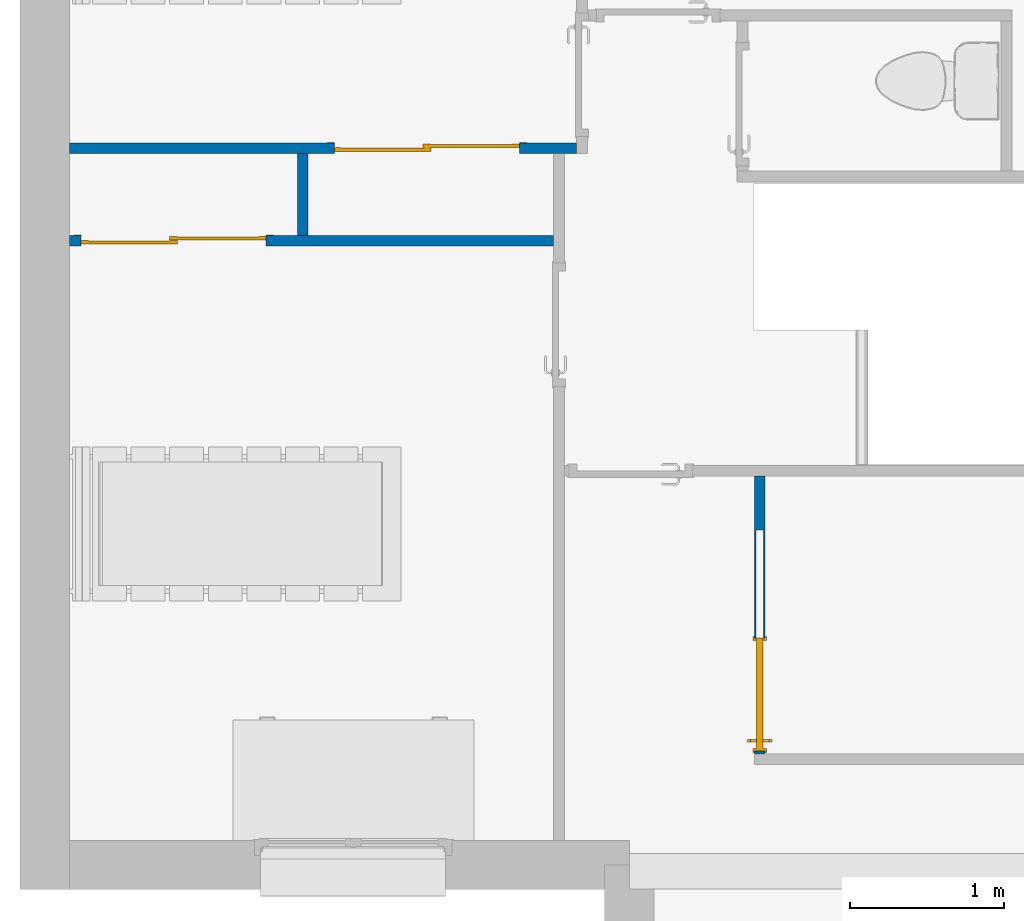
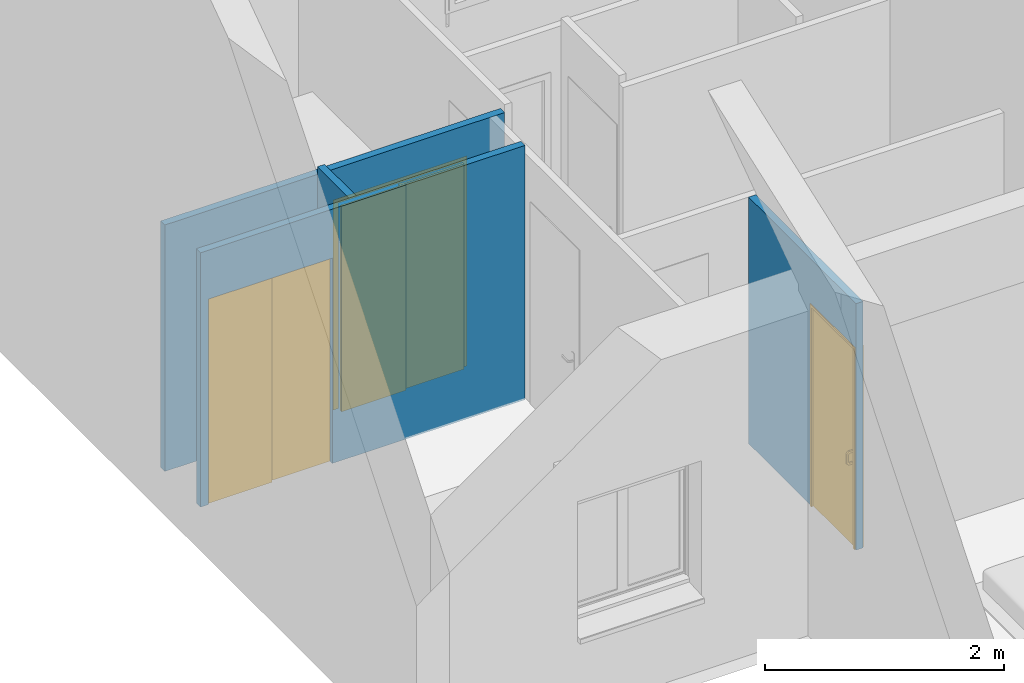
# One storey, part 11 of 61: 4 walls, 3 doors, 3 openings.
"""IFC2X3 building model written with IfcOpenShell, lengths in metres."""

from ifc_helpers import new_model, entity, si_unit, converted_unit, derived_unit, direction, frame, frame_2d, origin, origin_2d_with_axis, place, context, subcontext, project, spatial, polyline, circle_curve, parameter, trimmed, segment, composite_curve, rectangle, outline, extrude, faceted_brep, source, transform, mapped, material, material_list, layer, layer_set, layer_usage, type_object, type_shapes, element, fill, save


model = new_model("IFC2X3")

# Units and contexts
model_context = context("Model", 3, precision=1e-05, world=origin(), true_north=direction((6.12303176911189e-17, 1.0)))
body_context = subcontext(model_context, "Body", "Model", "MODEL_VIEW")
ifc_project = project(units=[si_unit("LENGTHUNIT", "METRE"), si_unit("AREAUNIT", "SQUARE_METRE"), si_unit("VOLUMEUNIT", "CUBIC_METRE"), converted_unit("PLANEANGLEUNIT", "DEGREE", entity("IfcRatioMeasure", 0.0174532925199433), si_unit("PLANEANGLEUNIT", "RADIAN"), dimensions=[0, 0, 0, 0, 0, 0, 0]), si_unit("MASSUNIT", "GRAM", prefix="KILO"), derived_unit("MASSDENSITYUNIT", [(si_unit("MASSUNIT", "GRAM", prefix="KILO"), 1), (si_unit("LENGTHUNIT", "METRE"), -3)]), si_unit("TIMEUNIT", "SECOND"), si_unit("FREQUENCYUNIT", "HERTZ"), si_unit("THERMODYNAMICTEMPERATUREUNIT", "DEGREE_CELSIUS"), derived_unit("THERMALTRANSMITTANCEUNIT", [(si_unit("MASSUNIT", "GRAM", prefix="KILO"), 1), (si_unit("THERMODYNAMICTEMPERATUREUNIT", "KELVIN"), -1), (si_unit("TIMEUNIT", "SECOND"), -3)]), derived_unit("VOLUMETRICFLOWRATEUNIT", [(si_unit("LENGTHUNIT", "METRE"), 3), (si_unit("TIMEUNIT", "SECOND"), -1)]), si_unit("ELECTRICCURRENTUNIT", "AMPERE"), si_unit("ELECTRICVOLTAGEUNIT", "VOLT"), si_unit("POWERUNIT", "WATT"), si_unit("FORCEUNIT", "NEWTON", prefix="KILO"), si_unit("ILLUMINANCEUNIT", "LUX"), si_unit("LUMINOUSFLUXUNIT", "LUMEN"), si_unit("LUMINOUSINTENSITYUNIT", "CANDELA"), derived_unit("USERDEFINED", [(si_unit("MASSUNIT", "GRAM", prefix="KILO"), -1), (si_unit("LENGTHUNIT", "METRE"), -2), (si_unit("TIMEUNIT", "SECOND"), 3), (si_unit("LUMINOUSFLUXUNIT", "LUMEN"), 1)]), derived_unit("LINEARVELOCITYUNIT", [(si_unit("LENGTHUNIT", "METRE"), 1), (si_unit("TIMEUNIT", "SECOND"), -1)]), si_unit("PRESSUREUNIT", "PASCAL"), derived_unit("USERDEFINED", [(si_unit("LENGTHUNIT", "METRE"), -2), (si_unit("MASSUNIT", "GRAM", prefix="KILO"), 1), (si_unit("TIMEUNIT", "SECOND"), -2)])], contexts=[model_context])

# Site, building, storey
site_placement = place(None, origin())
site = spatial("IfcSite", under=ifc_project, at=site_placement, Name="Surface", CompositionType="ELEMENT")
building_placement = place(site_placement, origin())
building = spatial("IfcBuilding", under=site, at=building_placement, CompositionType="ELEMENT")
storey_placement = place(building_placement, frame((0.0, 0.0, 2.82)))
storey = spatial("IfcBuildingStorey", under=building, at=storey_placement, Name="ETAGE", CompositionType="ELEMENT", Elevation=2.82)

# Wall, opening, door
ifc_material_1 = material(Name="Peinture - Blanc")
ifc_layer = layer(ifc_material_1, 0.07)
ifc_layer_set = layer_set([ifc_layer], Name="Mur de base:Int.  Platre 70 mm en blanc")
ifc_layer_usage_1 = layer_usage(ifc_layer_set, "AXIS2", "POSITIVE", -0.035)
wall_type = type_object("IfcWallType", Name="Mur de base:Int.  Platre 70 mm en blanc", PredefinedType="STANDARD", material=ifc_layer_set)
wall_1_placement = place(storey_placement, frame((64.992509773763, 84.6927566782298, 0.0), z_axis=(0.0, 0.0, 1.0), x_axis=(-1.0, 0.0, 0.0)))
wall_1 = element("IfcWallStandardCase", 1, at=wall_1_placement, inside=storey, type_object=wall_type, material=ifc_layer_usage_1, Name="Mur de base:Int.  Platre 70 mm en blanc", ObjectType="Mur de base:Int.  Platre 70 mm en blanc", context=body_context, shape_type="SweptSolid", body=[
    extrude(rectangle(XDim=3.28614635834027, YDim=0.0699999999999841, at=frame_2d((1.64307317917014, -2.37310171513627e-15), x_axis=(-1.0, 0.0))), origin(), (0.0, 0.0, 1.0), 2.52),
])
opening_1_placement = place(wall_1_placement, frame((1.56869914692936, 0.035000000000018, 0.0)))
opening_1 = element("IfcOpeningElement", 2, at=opening_1_placement, cuts=wall_1, Name="Placard coulissante - 2 panneaux:Placard coulissante - 2 panneaux:1", ObjectType="Opening", context=body_context, shape_type="SweptSolid", body=[
    extrude(rectangle(XDim=2.09999999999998, YDim=1.2, at=frame_2d((1.04999999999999, 0.6), x_axis=(1.0, 0.0))), frame((0.0, 0.0, 0.0), z_axis=(0.0, -1.0, 0.0), x_axis=(0.0, 0.0, 1.0)), (0.0, 0.0, 1.0), 0.07),
])
ifc_material_2 = material(Name="Placard - Profil")
ifc_material_3 = material(Name="Placard - Encadrement")
ifc_material_4 = material(Name="Placard - Porte")
ifc_material_list_1 = material_list([ifc_material_2, ifc_material_3, ifc_material_4])
ifc_material_list_2 = material_list([ifc_material_2, ifc_material_3, ifc_material_4])
door_style_1 = type_object("IfcDoorStyle", Name="Placard coulissante - 2 panneaux", ConstructionType="NOTDEFINED", OperationType="NOTDEFINED", ParameterTakesPrecedence=False, Sizeable=False, material=ifc_material_list_2)
shared_shape_1 = source(origin(), body_context, "Body", "SweptSolid", [
    extrude(outline(composite_curve([segment(polyline([(-0.00100000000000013, -0.0249999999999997), (0.00100000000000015, -0.0249999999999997)]), True, "CONTINUOUS"), segment(trimmed(circle_curve(frame_2d((-0.212860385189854, 0.0), x_axis=(0.0, -1.0)), 0.215316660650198), [parameter(83.3324595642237)], [parameter(96.6675404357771)], True, "PARAMETER"), True, "CONTINUOUS"), segment(polyline([(0.00100000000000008, 0.0249999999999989), (-0.00100000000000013, 0.0250000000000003)]), True, "CONTINUOUS"), segment(polyline([(-0.00100000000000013, 0.0250000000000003), (-0.00100000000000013, -0.0249999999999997)]), True, "CONTINUOUS")], self_intersect=False)), frame((0.0250000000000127, 0.00900000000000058, 0.0), z_axis=(0.0, 0.0, 1.0), x_axis=(0.0, -1.0, 0.0)), (0.0, 0.0, 1.0), 2.1),
    extrude(outline(composite_curve([segment(polyline([(-0.00100000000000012, -0.0249999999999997), (0.00100000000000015, -0.0249999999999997)]), True, "CONTINUOUS"), segment(trimmed(circle_curve(frame_2d((-0.212860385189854, 0.0), x_axis=(0.0, -1.0)), 0.215316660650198), [parameter(83.3324595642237)], [parameter(96.6675404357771)], True, "PARAMETER"), True, "CONTINUOUS"), segment(polyline([(0.00100000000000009, 0.0249999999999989), (-0.00100000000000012, 0.0250000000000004)]), True, "CONTINUOUS"), segment(polyline([(-0.00100000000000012, 0.0250000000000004), (-0.00100000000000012, -0.0249999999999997)]), True, "CONTINUOUS")], self_intersect=False)), frame((0.600000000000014, 0.00900000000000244, 0.0), z_axis=(0.0, 0.0, 1.0), x_axis=(0.0, -1.0, 0.0)), (0.0, 0.0, 1.0), 2.1),
    extrude(outline(composite_curve([segment(polyline([(-0.00100000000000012, -0.0249999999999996), (0.00100000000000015, -0.0249999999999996)]), True, "CONTINUOUS"), segment(trimmed(circle_curve(frame_2d((-0.212860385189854, 0.0), x_axis=(0.0, -1.0)), 0.215316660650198), [parameter(83.3324595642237)], [parameter(96.6675404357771)], True, "PARAMETER"), True, "CONTINUOUS"), segment(polyline([(0.00100000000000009, 0.0249999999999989), (-0.00100000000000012, 0.0250000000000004)]), True, "CONTINUOUS"), segment(polyline([(-0.00100000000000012, 0.0250000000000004), (-0.00100000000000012, -0.0249999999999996)]), True, "CONTINUOUS")], self_intersect=False)), frame((0.600000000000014, 0.0340000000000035, 0.0), z_axis=(0.0, 0.0, 1.0), x_axis=(0.0, -1.0, 0.0)), (0.0, 0.0, 1.0), 2.1),
    extrude(outline(composite_curve([segment(polyline([(-0.00100000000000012, -0.0249999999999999), (0.00100000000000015, -0.0249999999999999)]), True, "CONTINUOUS"), segment(trimmed(circle_curve(frame_2d((-0.212860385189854, 0.0), x_axis=(0.0, -1.0)), 0.215316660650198), [parameter(83.3324595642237)], [parameter(96.6675404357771)], True, "PARAMETER"), True, "CONTINUOUS"), segment(polyline([(0.00100000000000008, 0.0249999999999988), (-0.00100000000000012, 0.0250000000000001)]), True, "CONTINUOUS"), segment(polyline([(-0.00100000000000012, 0.0250000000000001), (-0.00100000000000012, -0.0249999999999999)]), True, "CONTINUOUS")], self_intersect=False)), frame((1.17500000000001, 0.0340000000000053, 0.0), z_axis=(0.0, 0.0, 1.0), x_axis=(0.0, -1.0, 0.0)), (0.0, 0.0, 1.0), 2.1),
    extrude(outline(polyline([(0.597999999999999, -1.06149999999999), (0.647999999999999, -1.06149999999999), (0.647999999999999, 1.08649999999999), (-0.647999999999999, 1.08649999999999), (-0.647999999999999, -1.06149999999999), (-0.597999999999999, -1.06149999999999), (-0.597999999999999, 1.03649999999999), (0.597999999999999, 1.03649999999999), (0.597999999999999, -1.06149999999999)])), frame((0.600000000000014, 0.0, 1.06149999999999), z_axis=(0.0, -1.0, 0.0), x_axis=(1.0, 0.0, 0.0)), (0.0, 0.0, 1.0), 0.003),
    extrude(rectangle(XDim=0.625000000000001, YDim=0.020000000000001, at=origin_2d_with_axis()), frame((0.312500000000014, 0.0200000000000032, 0.0)), (0.0, 0.0, 1.0), 2.1),
    extrude(rectangle(XDim=0.624999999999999, YDim=0.02, at=origin_2d_with_axis()), frame((0.887500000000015, 0.0450000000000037, 0.0)), (0.0, 0.0, 1.0), 2.1),
])
type_shapes(door_style_1, [shared_shape_1])
door_1_placement = place(opening_1_placement, frame((-1.20000000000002, -0.0700000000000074, 0.0)))
door_1 = element("IfcDoor", 3, at=door_1_placement, inside=storey, type_object=door_style_1, material=ifc_material_list_1, Name="Placard coulissante - 2 panneaux:Placard coulissante - 2 panneaux", ObjectType="Placard coulissante - 2 panneaux:Placard coulissante - 2 panneaux", OverallHeight=2.09999999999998, OverallWidth=1.2, context=body_context, shape_type="MappedRepresentation", body=[
    mapped(shared_shape_1, transform((0.0, 0.0, 0.0), scale=1.0)),
])
fill(opening_1, door_1)

ifc_layer_usage_2 = layer_usage(ifc_layer_set, "AXIS2", "POSITIVE", -0.035)
wall_2_placement = place(storey_placement, frame((64.8446263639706, 84.0927566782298, 0.0), z_axis=(0.0, 0.0, 1.0), x_axis=(-1.0, 0.0, 0.0)))
wall_2 = element("IfcWallStandardCase", 4, at=wall_2_placement, inside=storey, type_object=wall_type, material=ifc_layer_usage_2, Name="Mur de base:Int.  Platre 70 mm en blanc", ObjectType="Mur de base:Int.  Platre 70 mm en blanc", context=body_context, shape_type="SweptSolid", body=[
    extrude(rectangle(XDim=3.13826294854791, YDim=0.0699999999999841, at=frame_2d((1.56913147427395, -8.15320033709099e-16), x_axis=(-1.0, 0.0))), origin(), (0.0, 0.0, 1.0), 2.6),
])
opening_2_placement = place(wall_2_placement, frame((3.06326294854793, 0.0350000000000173, 0.0)))
opening_2 = element("IfcOpeningElement", 5, at=opening_2_placement, cuts=wall_2, Name="Placard coulissante - 2 panneaux:Placard coulissante - 2 panneaux:1", ObjectType="Opening", context=body_context, shape_type="SweptSolid", body=[
    extrude(rectangle(XDim=2.09999999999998, YDim=1.2, at=frame_2d((1.04999999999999, 0.6), x_axis=(1.0, 0.0))), frame((0.0, 0.0, 0.0), z_axis=(0.0, -1.0, 0.0), x_axis=(0.0, 0.0, 1.0)), (0.0, 0.0, 1.0), 0.07),
])
ifc_material_list_3 = material_list([ifc_material_2, ifc_material_3, ifc_material_4])
door_2_placement = place(opening_2_placement, frame((-1.20000000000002, -0.0699999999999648, 0.0)))
door_2 = element("IfcDoor", 6, at=door_2_placement, inside=storey, type_object=door_style_1, material=ifc_material_list_3, Name="Placard coulissante - 2 panneaux:Placard coulissante - 2 panneaux", ObjectType="Placard coulissante - 2 panneaux:Placard coulissante - 2 panneaux", OverallHeight=2.09999999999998, OverallWidth=1.2, context=body_context, shape_type="MappedRepresentation", body=[
    mapped(shared_shape_1, transform((0.0, 0.0, 0.0), scale=1.0)),
])
fill(opening_2, door_2)

# Wall
ifc_layer_usage_3 = layer_usage(ifc_layer_set, "AXIS2", "POSITIVE", -0.035)
wall_3_placement = place(storey_placement, frame((63.2179948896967, 84.1277566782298, 0.0), z_axis=(0.0, 0.0, 1.0), x_axis=(0.0, 1.0, 0.0)))
element("IfcWallStandardCase", 7, at=wall_3_placement, inside=storey, type_object=wall_type, material=ifc_layer_usage_3, Name="Mur de base:Int.  Platre 70 mm en blanc", ObjectType="Mur de base:Int.  Platre 70 mm en blanc", context=body_context, shape_type="SweptSolid", body=[
    extrude(rectangle(XDim=0.530000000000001, YDim=0.0700000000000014, at=frame_2d((0.265, -1.74513181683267e-15), x_axis=(-1.0, 0.0))), origin(), (0.0, 0.0, 1.0), 2.6),
])

# Wall, opening, door
ifc_layer_usage_4 = layer_usage(ifc_layer_set, "AXIS2", "POSITIVE", -0.035)
wall_4_placement = place(storey_placement, frame((66.1796263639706, 82.5677566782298, 0.0), z_axis=(0.0, 0.0, 1.0), x_axis=(0.0, -1.0, 0.0)))
wall_4 = element("IfcWallStandardCase", 8, at=wall_4_placement, inside=storey, type_object=wall_type, material=ifc_layer_usage_4, Name="Mur de base:Int.  Platre 70 mm en blanc", ObjectType="Mur de base:Int.  Platre 70 mm en blanc", context=body_context, shape_type="SweptSolid", body=[
    extrude(rectangle(XDim=1.80000000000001, YDim=0.0700000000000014, at=frame_2d((0.900000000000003, -1.59247615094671e-15), x_axis=(-1.0, 0.0))), origin(), (0.0, 0.0, 1.0), 2.52),
])
opening_3_placement = place(wall_4_placement, frame((1.77999999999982, -0.18500000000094, 0.0), z_axis=(0.0, 0.0, 1.0), x_axis=(0.0, 1.0, 0.0)))
opening_3 = element("IfcOpeningElement", 9, at=opening_3_placement, cuts=wall_4, Name="Mur de base:Int.  Platre 70 mm en blanc", ObjectType="Opening", context=body_context, shape_type="Brep", body=[
    faceted_brep([(0.0, 0.0, 2.055), (0.0, 0.0, 0.0), (0.370000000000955, 0.0, 0.0), (0.370000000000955, 0.0, 2.055), (0.0, 0.729999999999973, 2.055), (0.0, 0.729999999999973, 0.0), (0.16000000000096, 0.729999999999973, 2.055), (0.160000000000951, 0.729999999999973, 0.0), (0.160000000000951, 1.42999999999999, 2.055), (0.160000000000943, 1.42999999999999, 0.0), (0.210000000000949, 1.42999999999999, 2.055), (0.210000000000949, 1.42999999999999, 0.0), (0.210000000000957, 0.729999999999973, 2.055), (0.210000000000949, 0.729999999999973, 0.0), (0.370000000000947, 0.72999999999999, 2.055), (0.370000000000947, 0.72999999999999, 0.0)], [[[0, 1, 2, 3]], [[4, 5, 1, 0]], [[6, 7, 5, 4]], [[8, 9, 7, 6]], [[10, 11, 9, 8]], [[12, 13, 11, 10]], [[14, 12, 10, 8, 6, 4, 0, 3]], [[15, 2, 1, 5, 7, 9, 11, 13]], [[3, 2, 15, 14]], [[14, 15, 13, 12]]]),
])
ifc_material_5 = material(Name="Porte - Poignée")
ifc_material_6 = material(Name="Porte - Panneau")
ifc_material_7 = material(Name="Porte - Cadre")
ifc_material_list_4 = material_list([ifc_material_5, ifc_material_6, ifc_material_7])
ifc_material_list_5 = material_list([ifc_material_5, ifc_material_6, ifc_material_7])
door_style_2 = type_object("IfcDoorStyle", Name="0.70m x 2.04m 2", ConstructionType="NOTDEFINED", OperationType="NOTDEFINED", ParameterTakesPrecedence=False, Sizeable=False, material=ifc_material_list_5)
shared_shape_2 = source(origin(), body_context, "Body", "Brep", [
    faceted_brep([(0.778370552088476, 0.300805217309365, 0.949316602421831), (0.783009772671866, 0.300805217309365, 0.94874401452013), (0.787648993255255, 0.300805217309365, 0.94931660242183), (0.792009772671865, 0.300805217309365, 0.951000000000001), (0.792009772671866, 0.300805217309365, 0.969), (0.787648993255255, 0.300805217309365, 0.97068339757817), (0.783009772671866, 0.300805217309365, 0.971255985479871), (0.778370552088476, 0.300805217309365, 0.97068339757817), (0.774009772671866, 0.300805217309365, 0.969), (0.774009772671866, 0.300805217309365, 0.951000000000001), (0.778370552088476, 0.300805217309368, 0.850683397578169), (0.774009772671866, 0.300805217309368, 0.848999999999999), (0.774009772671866, 0.300805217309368, 0.831), (0.778370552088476, 0.300805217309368, 0.829316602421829), (0.783009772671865, 0.300805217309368, 0.828744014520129), (0.787648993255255, 0.300805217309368, 0.829316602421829), (0.792009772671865, 0.300805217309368, 0.831), (0.792009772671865, 0.300805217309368, 0.848999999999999), (0.787648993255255, 0.300805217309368, 0.850683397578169), (0.783009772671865, 0.300805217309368, 0.85125598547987), (0.792009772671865, 0.339533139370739, 0.831), (0.792009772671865, 0.359805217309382, 0.851272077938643), (0.792009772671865, 0.359805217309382, 0.948727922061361), (0.792009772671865, 0.33953313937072, 0.969), (0.792009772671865, 0.33207729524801, 0.951000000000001), (0.792009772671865, 0.341805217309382, 0.941272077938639), (0.792009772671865, 0.341805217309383, 0.858727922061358), (0.792009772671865, 0.332077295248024, 0.848999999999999), (0.787648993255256, 0.340230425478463, 0.97068339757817), (0.783009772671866, 0.340467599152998, 0.971255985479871), (0.778370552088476, 0.340230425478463, 0.97068339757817), (0.774009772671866, 0.33953313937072, 0.969), (0.774009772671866, 0.359805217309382, 0.948727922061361), (0.774009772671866, 0.359805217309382, 0.851272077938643), (0.774009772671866, 0.339533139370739, 0.831), (0.774009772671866, 0.332077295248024, 0.848999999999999), (0.774009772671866, 0.341805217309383, 0.858727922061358), (0.774009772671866, 0.341805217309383, 0.94127207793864), (0.774009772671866, 0.33207729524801, 0.951000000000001), (0.778370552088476, 0.331380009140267, 0.949316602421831), (0.783009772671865, 0.331142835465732, 0.94874401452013), (0.787648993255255, 0.331380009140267, 0.94931660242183), (0.787648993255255, 0.361488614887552, 0.949425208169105), (0.783009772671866, 0.362061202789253, 0.949662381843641), (0.778370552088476, 0.361488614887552, 0.949425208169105), (0.778370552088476, 0.340121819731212, 0.940574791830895), (0.783009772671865, 0.339549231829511, 0.940337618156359), (0.787648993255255, 0.340121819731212, 0.940574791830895), (0.787648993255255, 0.361488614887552, 0.850574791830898), (0.783009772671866, 0.362061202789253, 0.850337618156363), (0.778370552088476, 0.361488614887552, 0.850574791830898), (0.778370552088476, 0.340121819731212, 0.859425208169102), (0.783009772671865, 0.339549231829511, 0.859662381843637), (0.787648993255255, 0.340121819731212, 0.859425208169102), (0.787648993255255, 0.340230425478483, 0.829316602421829), (0.783009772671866, 0.340467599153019, 0.828744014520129), (0.778370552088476, 0.340230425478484, 0.829316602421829), (0.778370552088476, 0.33138000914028, 0.850683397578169), (0.783009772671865, 0.331142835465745, 0.85125598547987), (0.787648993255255, 0.33138000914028, 0.850683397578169)], [[[0, 1, 2, 3, 4, 5, 6, 7, 8, 9]], [[10, 11, 12, 13, 14, 15, 16, 17, 18, 19]], [[16, 20, 21, 22, 23, 4, 3, 24, 25, 26, 27, 17]], [[23, 28, 5, 4]], [[5, 28, 29, 6]], [[30, 7, 6, 29]], [[7, 30, 31, 8]], [[8, 31, 32, 33, 34, 12, 11, 35, 36, 37, 38, 9]], [[38, 39, 0, 9]], [[1, 0, 39, 40]], [[41, 24, 3, 2]], [[41, 2, 1, 40]], [[22, 42, 28, 23]], [[28, 42, 43, 29]], [[43, 44, 30, 29]], [[44, 32, 31, 30]], [[37, 45, 39, 38]], [[39, 45, 46, 40]], [[47, 25, 24, 41]], [[41, 40, 46, 47]], [[21, 48, 42, 22]], [[42, 48, 49, 43]], [[49, 50, 44, 43]], [[50, 33, 32, 44]], [[36, 51, 45, 37]], [[46, 45, 51, 52]], [[53, 26, 25, 47]], [[53, 47, 46, 52]], [[20, 54, 48, 21]], [[48, 54, 55, 49]], [[55, 56, 50, 49]], [[56, 34, 33, 50]], [[35, 57, 51, 36]], [[51, 57, 58, 52]], [[59, 27, 26, 53]], [[53, 52, 58, 59]], [[16, 15, 54, 20]], [[55, 54, 15, 14]], [[13, 12, 34, 56]], [[13, 56, 55, 14]], [[11, 10, 57, 35]], [[58, 57, 10, 19]], [[18, 17, 27, 59]], [[59, 58, 19, 18]]]),
    faceted_brep([(0.778370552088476, 0.260805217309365, 0.97068339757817), (0.783009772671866, 0.260805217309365, 0.971255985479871), (0.787648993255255, 0.260805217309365, 0.97068339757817), (0.792009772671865, 0.260805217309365, 0.969), (0.792009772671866, 0.260805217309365, 0.951000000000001), (0.787648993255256, 0.260805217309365, 0.94931660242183), (0.783009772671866, 0.260805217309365, 0.94874401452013), (0.778370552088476, 0.260805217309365, 0.94931660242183), (0.774009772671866, 0.260805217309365, 0.951000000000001), (0.774009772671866, 0.260805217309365, 0.969), (0.783009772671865, 0.260805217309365, 0.828744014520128), (0.778370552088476, 0.260805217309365, 0.829316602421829), (0.774009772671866, 0.260805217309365, 0.831), (0.774009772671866, 0.260805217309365, 0.848999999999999), (0.778370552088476, 0.260805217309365, 0.850683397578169), (0.783009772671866, 0.260805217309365, 0.85125598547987), (0.787648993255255, 0.260805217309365, 0.850683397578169), (0.792009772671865, 0.260805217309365, 0.848999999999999), (0.792009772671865, 0.260805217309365, 0.831), (0.787648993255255, 0.260805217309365, 0.829316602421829), (0.774009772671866, 0.222077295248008, 0.969), (0.778370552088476, 0.221380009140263, 0.97068339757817), (0.783009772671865, 0.221142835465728, 0.971255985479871), (0.787648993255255, 0.221380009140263, 0.970683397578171), (0.792009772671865, 0.222077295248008, 0.969), (0.792009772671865, 0.201805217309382, 0.948727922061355), (0.792009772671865, 0.201805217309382, 0.851272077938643), (0.792009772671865, 0.222077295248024, 0.831), (0.792009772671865, 0.22953313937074, 0.848999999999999), (0.792009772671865, 0.219805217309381, 0.858727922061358), (0.792009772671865, 0.219805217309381, 0.941272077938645), (0.792009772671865, 0.229533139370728, 0.951000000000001), (0.787648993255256, 0.230230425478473, 0.94931660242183), (0.783009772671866, 0.230467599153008, 0.94874401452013), (0.778370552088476, 0.230230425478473, 0.94931660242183), (0.774009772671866, 0.229533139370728, 0.951000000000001), (0.774009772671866, 0.222077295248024, 0.831), (0.774009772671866, 0.201805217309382, 0.851272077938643), (0.774009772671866, 0.201805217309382, 0.948727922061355), (0.774009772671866, 0.219805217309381, 0.941272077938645), (0.774009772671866, 0.219805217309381, 0.858727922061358), (0.774009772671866, 0.229533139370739, 0.848999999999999), (0.778370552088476, 0.200121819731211, 0.949425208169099), (0.783009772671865, 0.199549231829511, 0.949662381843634), (0.787648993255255, 0.200121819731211, 0.949425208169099), (0.787648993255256, 0.221488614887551, 0.940574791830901), (0.783009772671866, 0.222061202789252, 0.940337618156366), (0.778370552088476, 0.221488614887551, 0.940574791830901), (0.778370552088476, 0.200121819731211, 0.850574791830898), (0.783009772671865, 0.19954923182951, 0.850337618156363), (0.787648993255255, 0.200121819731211, 0.850574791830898), (0.787648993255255, 0.221488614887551, 0.859425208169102), (0.783009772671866, 0.222061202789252, 0.859662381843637), (0.778370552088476, 0.221488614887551, 0.859425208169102), (0.778370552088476, 0.22138000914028, 0.829316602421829), (0.783009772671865, 0.221142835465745, 0.828744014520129), (0.787648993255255, 0.22138000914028, 0.829316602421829), (0.787648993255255, 0.230230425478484, 0.850683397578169), (0.783009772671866, 0.230467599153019, 0.85125598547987), (0.778370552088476, 0.230230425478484, 0.850683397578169)], [[[0, 1, 2, 3, 4, 5, 6, 7, 8, 9]], [[10, 11, 12, 13, 14, 15, 16, 17, 18, 19]], [[20, 21, 0, 9]], [[0, 21, 22, 1]], [[23, 2, 1, 22]], [[2, 23, 24, 3]], [[3, 24, 25, 26, 27, 18, 17, 28, 29, 30, 31, 4]], [[31, 32, 5, 4]], [[6, 5, 32, 33]], [[34, 35, 8, 7]], [[34, 7, 6, 33]], [[12, 36, 37, 38, 20, 9, 8, 35, 39, 40, 41, 13]], [[38, 42, 21, 20]], [[21, 42, 43, 22]], [[43, 44, 23, 22]], [[44, 25, 24, 23]], [[30, 45, 32, 31]], [[32, 45, 46, 33]], [[47, 39, 35, 34]], [[34, 33, 46, 47]], [[37, 48, 42, 38]], [[42, 48, 49, 43]], [[49, 50, 44, 43]], [[50, 26, 25, 44]], [[29, 51, 45, 30]], [[46, 45, 51, 52]], [[53, 40, 39, 47]], [[53, 47, 46, 52]], [[36, 54, 48, 37]], [[48, 54, 55, 49]], [[55, 56, 50, 49]], [[56, 27, 26, 50]], [[28, 57, 51, 29]], [[51, 57, 58, 52]], [[59, 41, 40, 53]], [[53, 52, 58, 59]], [[12, 11, 54, 36]], [[55, 54, 11, 10]], [[19, 18, 27, 56]], [[19, 56, 55, 10]], [[17, 16, 57, 28]], [[58, 57, 16, 15]], [[14, 13, 41, 59]], [[59, 58, 15, 14]]]),
    faceted_brep([(0.733009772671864, 0.260805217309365, 2.04), (1.44800977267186, 0.260805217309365, 2.04), (1.44800977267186, 0.300805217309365, 2.04), (0.733009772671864, 0.300805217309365, 2.04), (0.733009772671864, 0.260805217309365, 0.0), (0.733009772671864, 0.300805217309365, 0.0), (1.44800977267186, 0.300805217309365, 0.0), (1.44800977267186, 0.260805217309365, 0.0)], [[[0, 1, 2, 3]], [[4, 5, 6, 7]], [[3, 5, 4, 0]], [[2, 6, 5, 3]], [[1, 7, 6, 2]], [[0, 4, 7, 1]]]),
    faceted_brep([(1.44800977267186, 0.315805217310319, 0.0), (1.44800977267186, 0.305805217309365, 0.0), (1.43300977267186, 0.305805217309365, 0.0), (1.43300977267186, 0.323805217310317, 0.0), (1.45800977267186, 0.323805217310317, 0.0), (1.45800977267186, 0.315805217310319, 0.0), (1.45800977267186, 0.315805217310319, 2.065), (0.708009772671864, 0.315805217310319, 2.065), (0.708009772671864, 0.315805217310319, 0.0), (0.718009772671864, 0.315805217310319, 0.0), (0.718009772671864, 0.315805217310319, 2.055), (1.44800977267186, 0.315805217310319, 2.055), (1.45800977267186, 0.323805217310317, 2.065), (1.43300977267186, 0.323805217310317, 2.04), (0.733009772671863, 0.323805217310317, 2.04), (0.733009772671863, 0.323805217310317, 0.0), (0.708009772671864, 0.323805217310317, 0.0), (0.708009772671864, 0.323805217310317, 2.065), (1.43300977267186, 0.305805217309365, 2.04), (1.44800977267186, 0.305805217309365, 2.04), (1.44800977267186, 0.245805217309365, 0.0), (1.44800977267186, 0.255805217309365, 0.0), (1.44800977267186, 0.255805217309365, 2.04), (1.44800977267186, 0.245805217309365, 2.055), (1.45800977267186, 0.237805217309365, 0.0), (1.45800977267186, 0.237805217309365, 2.065), (0.708009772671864, 0.237805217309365, 2.065), (0.708009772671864, 0.237805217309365, 0.0), (0.733009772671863, 0.237805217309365, 0.0), (0.733009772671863, 0.237805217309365, 2.04), (1.43300977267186, 0.237805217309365, 2.04), (1.43300977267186, 0.237805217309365, 0.0), (1.45800977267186, 0.245805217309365, 0.0), (1.45800977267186, 0.245805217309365, 2.065), (0.718009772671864, 0.245805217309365, 2.055), (0.718009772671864, 0.245805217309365, 0.0), (0.708009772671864, 0.245805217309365, 0.0), (0.708009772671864, 0.245805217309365, 2.065), (1.43300977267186, 0.255805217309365, 0.0), (1.43300977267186, 0.255805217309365, 2.04)], [[[0, 1, 2, 3, 4, 5]], [[5, 6, 7, 8, 9, 10, 11, 0]], [[4, 12, 6, 5]], [[3, 13, 14, 15, 16, 17, 12, 4]], [[3, 2, 18, 13]], [[18, 2, 1, 19]], [[20, 21, 22, 19, 1, 0, 11, 23]], [[24, 25, 26, 27, 28, 29, 30, 31]], [[32, 33, 25, 24]], [[20, 23, 34, 35, 36, 37, 33, 32]], [[22, 21, 38, 39]], [[9, 35, 34, 10]], [[8, 16, 15, 28, 27, 36, 35, 9]], [[7, 17, 16, 8]], [[14, 29, 28, 15]], [[26, 37, 36, 27]], [[11, 10, 34, 23]], [[6, 12, 17, 7]], [[13, 18, 19, 22, 39, 30, 29, 14]], [[25, 33, 37, 26]], [[30, 39, 38, 31]], [[31, 38, 21, 20, 32, 24]]]),
])
type_shapes(door_style_2, [shared_shape_2])
door_3_placement = place(opening_3_placement, frame((0.465805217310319, -0.718009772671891, 0.0), z_axis=(0.0, 0.0, 1.0), x_axis=(0.0, 1.0, 0.0)))
door_3 = element("IfcDoor", 10, at=door_3_placement, inside=storey, type_object=door_style_2, material=ifc_material_list_4, Name="Coulissante - Encastrée:0.70m x 2.04m 2", ObjectType="Coulissante - Encastrée:0.70m x 2.04m 2", OverallHeight=2.065, OverallWidth=1.44000000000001, context=body_context, shape_type="MappedRepresentation", body=[
    mapped(shared_shape_2, transform((0.0, 0.0, 0.0), scale=1.0)),
])
fill(opening_3, door_3)

save(model, "model.ifc")
